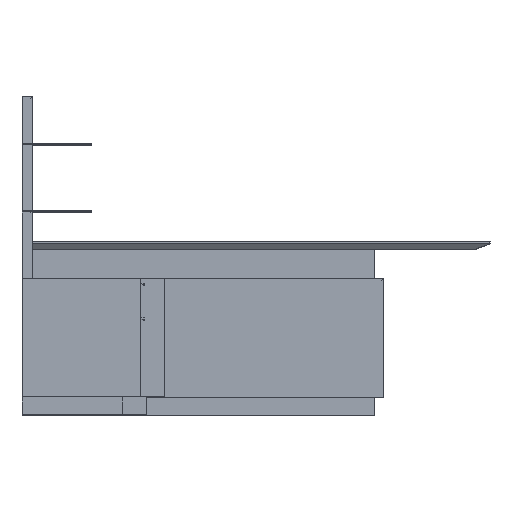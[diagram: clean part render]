
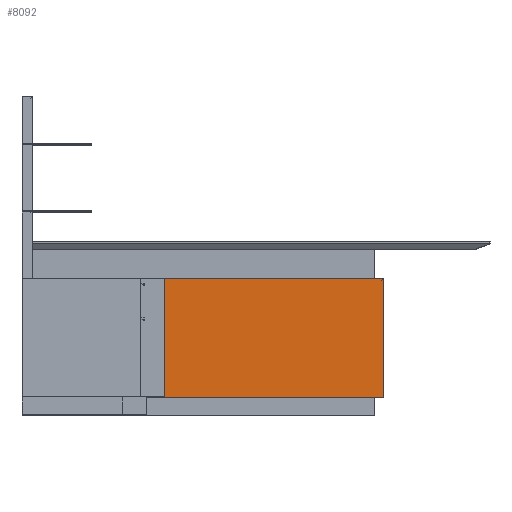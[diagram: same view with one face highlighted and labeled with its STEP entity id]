
A CAD part, top view. The second image highlights one B-rep face of the part: STEP entity #8092.
In plain terms, the highlighted planar face has unit normal (0, 0, 1) as drawn and (-1, 0, 0) by its records, which use the part's own axes.
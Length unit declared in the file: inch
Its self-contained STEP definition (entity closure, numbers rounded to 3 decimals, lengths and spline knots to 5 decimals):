
#1561=FACE_OUTER_BOUND('',#1993,.T.);
#1993=EDGE_LOOP('',(#5833,#5834,#5835,#5836));
#2453=LINE('',#11579,#3338);
#2456=LINE('',#11585,#3341);
#2459=LINE('',#11592,#3344);
#2461=LINE('',#11595,#3346);
#3338=VECTOR('',#9565,0.3937);
#3341=VECTOR('',#9570,0.3937);
#3344=VECTOR('',#9577,0.3937);
#3346=VECTOR('',#9581,0.3937);
#4212=VERTEX_POINT('',#11572);
#4215=VERTEX_POINT('',#11577);
#4217=VERTEX_POINT('',#11583);
#4219=VERTEX_POINT('',#11591);
#4851=EDGE_CURVE('',#4212,#4215,#2453,.T.);
#4854=EDGE_CURVE('',#4217,#4215,#2456,.T.);
#4857=EDGE_CURVE('',#4219,#4212,#2459,.T.);
#4859=EDGE_CURVE('',#4217,#4219,#2461,.T.);
#5833=ORIENTED_EDGE('',*,*,#4851,.T.);
#5834=ORIENTED_EDGE('',*,*,#4854,.F.);
#5835=ORIENTED_EDGE('',*,*,#4859,.T.);
#5836=ORIENTED_EDGE('',*,*,#4857,.T.);
#7675=PLANE('',#8964);
#8092=ADVANCED_FACE('',(#1561),#7675,.T.);
#8964=AXIS2_PLACEMENT_3D('',#11594,#9579,#9580);
#9565=DIRECTION('',(0.,0.,-1.));
#9570=DIRECTION('',(0.,1.,0.));
#9577=DIRECTION('',(0.,1.,0.));
#9579=DIRECTION('center_axis',(-1.,0.,0.));
#9580=DIRECTION('ref_axis',(0.,0.,1.));
#9581=DIRECTION('',(0.,0.,1.));
#11572=CARTESIAN_POINT('',(0.,20.,0.));
#11577=CARTESIAN_POINT('',(0.,20.,-61.));
#11579=CARTESIAN_POINT('',(0.,20.,-45.75));
#11583=CARTESIAN_POINT('',(0.,0.,-61.));
#11585=CARTESIAN_POINT('',(0.,0.,-61.));
#11591=CARTESIAN_POINT('',(0.,0.,0.));
#11592=CARTESIAN_POINT('',(0.,0.,0.));
#11594=CARTESIAN_POINT('Origin',(0.,0.,-61.));
#11595=CARTESIAN_POINT('',(0.,0.,-61.));
